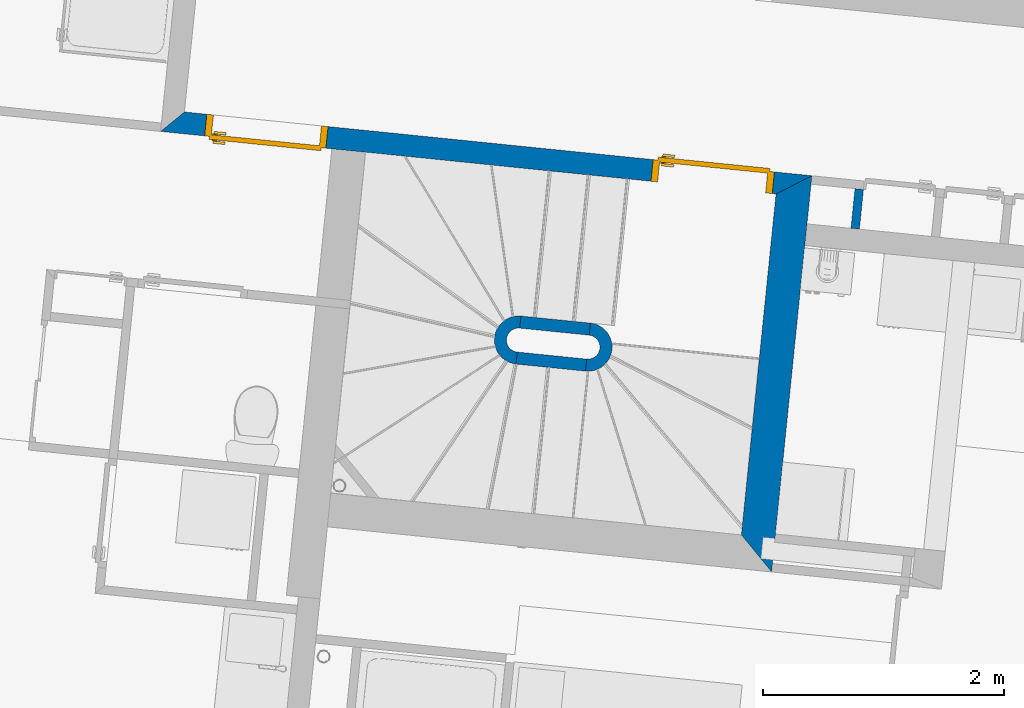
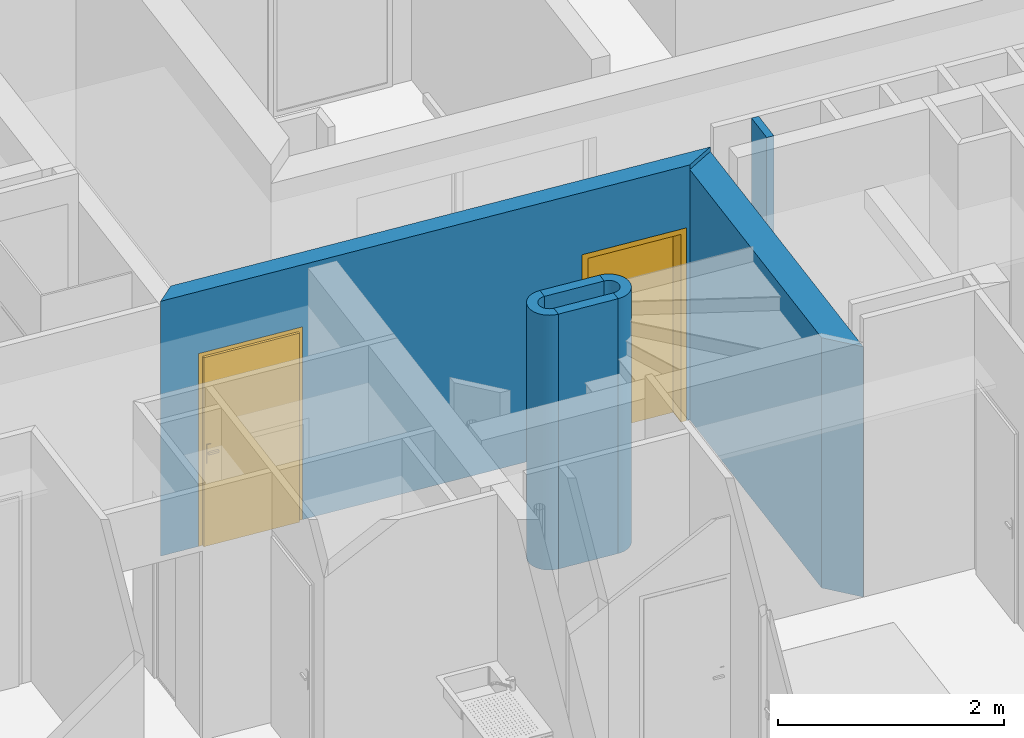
# One storey, part 65 of 171: 7 walls, 2 doors, 2 openings.
"""IFC2X3 building model written with IfcOpenShell, lengths in millimetres."""

from ifc_helpers import new_model, entity, si_unit, converted_unit, derived_unit, money_unit, point, direction, frame, frame_2d, origin_with_axes, origin_2d_with_axis, place, context, subcontext, project, spatial, polyline, circle_curve, parameter, trimmed, segment, composite_curve, rectangle, outline, extrude, faceted_brep, source, transform, mapped, material, layer, layer_set, layer_usage, type_object, element, fill, save


model = new_model("IFC2X3")

# Units and contexts
model_context = context("Model", 3, precision=0.01, world=origin_with_axes(), true_north=direction((0.0, 1.0)))
body_context = subcontext(model_context, "Body", "Model", "MODEL_VIEW")
ifc_project = project(units=[si_unit("LENGTHUNIT", "METRE", prefix="MILLI"), si_unit("AREAUNIT", "SQUARE_METRE"), si_unit("VOLUMEUNIT", "CUBIC_METRE"), converted_unit("PLANEANGLEUNIT", "DEGREE", entity("IfcPlaneAngleMeasure", 0.0174532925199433), si_unit("PLANEANGLEUNIT", "RADIAN"), dimensions=[0, 0, 0, 0, 0, 0, 0]), money_unit("USD"), converted_unit("TIMEUNIT", "Year", entity("IfcTimeMeasure", 31557600.0), si_unit("TIMEUNIT", "SECOND"), dimensions=[0, 0, 1, 0, 0, 0, 0]), si_unit("MASSUNIT", "GRAM", prefix="KILO"), si_unit("THERMODYNAMICTEMPERATUREUNIT", "DEGREE_CELSIUS"), si_unit("LUMINOUSINTENSITYUNIT", "LUMEN"), si_unit("ENERGYUNIT", "JOULE", prefix="MEGA"), derived_unit("THERMALCONDUCTANCEUNIT", [(si_unit("POWERUNIT", "WATT"), 1), (si_unit("LENGTHUNIT", "METRE"), -1), (si_unit("THERMODYNAMICTEMPERATUREUNIT", "KELVIN"), -1)]), derived_unit("SPECIFICHEATCAPACITYUNIT", [(si_unit("ENERGYUNIT", "JOULE"), 1), (si_unit("MASSUNIT", "GRAM", prefix="KILO"), -1), (si_unit("THERMODYNAMICTEMPERATUREUNIT", "KELVIN"), -1)]), derived_unit("MASSDENSITYUNIT", [(si_unit("MASSUNIT", "GRAM", prefix="KILO"), 1), (si_unit("VOLUMEUNIT", "CUBIC_METRE"), -1)])], contexts=[model_context])

# Site, building, storey
site_placement = place(None, origin_with_axes())
site = spatial("IfcSite", under=ifc_project, at=site_placement, Name="Site", CompositionType="ELEMENT")
building_placement = place(site_placement, origin_with_axes())
building = spatial("IfcBuilding", under=site, at=building_placement, Name="Bâtiment", CompositionType="ELEMENT")
storey_placement = place(building_placement, frame((0.0, 0.0, 3000.0), z_axis=(0.0, 0.0, 1.0), x_axis=(1.0, 0.0, 0.0)))
storey = spatial("IfcBuildingStorey", under=building, at=storey_placement, Name="rdc", CompositionType="ELEMENT", Elevation=3000.0)

# Wall, openings, doors
ifc_material_1 = material(Name="Parpaing 314940890")
ifc_layer_1 = layer(ifc_material_1, 180.0, ventilated="UNKNOWN")
ifc_layer_set_1 = layer_set([ifc_layer_1], Name="Beton  18 0018356637")
ifc_layer_usage_1 = layer_usage(ifc_layer_set_1, "AXIS2", "NEGATIVE", 0.0)
wall_type_1 = type_object("IfcWallType", Name="Beton  18 0018356637 180", PredefinedType="NOTDEFINED")
wall_1_placement = place(storey_placement, frame((2223823.551017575, -613702.3362195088, 0.0), z_axis=(0.0, 0.0, 1.0), x_axis=(0.9948759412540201, -0.1011032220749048, 0.0)))
wall_1 = element("IfcWallStandardCase", 1, at=wall_1_placement, inside=storey, type_object=wall_type_1, material=ifc_layer_usage_1, Name="Mur-143", context=body_context, shape_type="SweptSolid", body=[
    extrude(outline(polyline([(-180.0000000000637, -179.9999999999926), (4947.591869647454, -179.9999999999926), (5227.591869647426, 0.0), (-1.13686837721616e-10, 0.0), (-180.0000000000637, -179.9999999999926)])), origin_with_axes(), (0.0, 0.0, 1.0), 2750.0),
])
opening_1_placement = place(wall_1_placement, frame((4410.531857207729, 0.0, 0.0), z_axis=(0.0, 0.0, 1.0), x_axis=(1.0, 0.0, 0.0)))
opening_1 = element("IfcOpeningElement", 2, at=opening_1_placement, cuts=wall_1, Name="Por-281", context=body_context, shape_type="SweptSolid", body=[
    extrude(rectangle(XDim=1010.000011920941, YDim=2080.0, at=origin_2d_with_axis()), frame((5.960259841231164e-06, -179.9999999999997, 1040.0), z_axis=(0.0, 1.0, 0.0), x_axis=(1.0, 0.0, 0.0)), (0.0, 0.0, 1.0), 360.0),
])
opening_2_placement = place(wall_1_placement, frame((692.1727638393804, 0.0, 0.0), z_axis=(0.0, 0.0, 1.0), x_axis=(1.0, 0.0, 0.0)))
opening_2 = element("IfcOpeningElement", 3, at=opening_2_placement, cuts=wall_1, Name="Por-279", context=body_context, shape_type="SweptSolid", body=[
    extrude(rectangle(XDim=1010.000011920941, YDim=2080.0, at=origin_2d_with_axis()), frame((5.960259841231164e-06, 180.0000000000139, 1040.0), z_axis=(0.0, 1.0, 0.0), x_axis=(1.0, 0.0, 0.0)), (0.0, 0.0, -1.0), 360.0),
])
door_style = type_object("IfcDoorStyle", Name="Porte_1v", ConstructionType="NOTDEFINED", OperationType="NOTDEFINED", ParameterTakesPrecedence=False, Sizeable=False)
shared_shape_1 = source(origin_with_axes(), body_context, "Body", "Brep", [
    faceted_brep([(504.9999999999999, 0.0, 0.0), (464.9999999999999, 0.0, 0.0), (464.9999999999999, 0.0, 2040.0), (-464.9999999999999, 0.0, 2040.0), (-464.9999999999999, 0.0, 0.0), (-504.9999999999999, 0.0, 0.0), (-504.9999999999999, 0.0, 2080.0), (504.9999999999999, 0.0, 2080.0), (504.9999999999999, -180.0, 0.0), (449.9999999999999, -180.0, 0.0), (449.9999999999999, -15.0, 0.0), (464.9999999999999, -15.0, 0.0), (464.9999999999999, -15.0, 2040.0), (-464.9999999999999, -15.0, 2040.0), (-464.9999999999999, -15.0, 0.0), (-449.9999999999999, -15.0, 0.0), (-449.9999999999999, -180.0, 0.0), (-504.9999999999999, -180.0, 0.0), (-504.9999999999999, -180.0, 2080.0), (504.9999999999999, -180.0, 2080.0), (-449.9999999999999, -180.0, 2025.0), (449.9999999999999, -180.0, 2025.0), (449.9999999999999, -15.0, 2025.0), (-449.9999999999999, -15.0, 2025.0)], [[[0, 1, 2, 3, 4, 5, 6, 7]], [[0, 8, 9, 10, 11, 1]], [[1, 11, 12, 2]], [[2, 12, 13, 3]], [[3, 13, 14, 4]], [[5, 4, 14, 15, 16, 17]], [[18, 6, 5, 17]], [[19, 7, 6, 18]], [[8, 0, 7, 19]], [[9, 8, 19, 18, 17, 16, 20, 21]], [[10, 9, 21, 22]], [[11, 10, 22, 23, 15, 14, 13, 12]], [[23, 20, 16, 15]], [[22, 21, 20, 23]]]),
    faceted_brep([(-399.9999999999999, -15.0, 900.0), (-439.9999999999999, -15.0, 900.0), (-439.9999999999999, -15.0, 1100.0), (-399.9999999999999, -15.0, 1100.0), (-399.9999999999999, -25.0, 900.0), (-439.9999999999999, -25.0, 900.0), (-439.9999999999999, -25.0, 1100.0), (-399.9999999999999, -25.0, 1100.0)], [[[0, 1, 2, 3]], [[1, 0, 4, 5]], [[2, 1, 5, 6]], [[3, 2, 6, 7]], [[0, 3, 7, 4]], [[5, 4, 7, 6]]]),
    faceted_brep([(-329.9999999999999, -25.0, 1000.0), (-429.9999999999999, -25.0, 1000.0), (-429.9999999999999, -25.0, 1020.0), (-329.9999999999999, -25.0, 1020.0), (-329.9999999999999, -44.99999999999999, 1000.0), (-429.9999999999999, -44.99999999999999, 1000.0), (-429.9999999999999, -44.99999999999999, 1020.0), (-329.9999999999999, -44.99999999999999, 1020.0)], [[[0, 1, 2, 3]], [[1, 0, 4, 5]], [[2, 1, 5, 6]], [[3, 2, 6, 7]], [[0, 3, 7, 4]], [[5, 4, 7, 6]]]),
    faceted_brep([(-399.9999999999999, 34.99999999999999, 900.0), (-439.9999999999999, 34.99999999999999, 900.0), (-439.9999999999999, 34.99999999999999, 1100.0), (-399.9999999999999, 34.99999999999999, 1100.0), (-399.9999999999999, 25.0, 900.0), (-439.9999999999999, 25.0, 900.0), (-439.9999999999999, 25.0, 1100.0), (-399.9999999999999, 25.0, 1100.0)], [[[0, 1, 2, 3]], [[1, 0, 4, 5]], [[2, 1, 5, 6]], [[3, 2, 6, 7]], [[0, 3, 7, 4]], [[5, 4, 7, 6]]]),
    faceted_brep([(-329.9999999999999, 55.0, 1000.0), (-429.9999999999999, 55.0, 1000.0), (-429.9999999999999, 55.0, 1020.0), (-329.9999999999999, 55.0, 1020.0), (-329.9999999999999, 34.99999999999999, 1000.0), (-429.9999999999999, 34.99999999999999, 1000.0), (-429.9999999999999, 34.99999999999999, 1020.0), (-329.9999999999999, 34.99999999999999, 1020.0)], [[[0, 1, 2, 3]], [[1, 0, 4, 5]], [[2, 1, 5, 6]], [[3, 2, 6, 7]], [[0, 3, 7, 4]], [[5, 4, 7, 6]]]),
    faceted_brep([(-464.9999999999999, 25.0, 0.0), (464.9999999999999, 25.0, 0.0), (464.9999999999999, -15.0, 0.0), (-464.9999999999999, -15.0, 0.0), (-464.9999999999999, 25.0, 2040.0), (464.9999999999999, 25.0, 2040.0), (464.9999999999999, -15.0, 2040.0), (-464.9999999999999, -15.0, 2040.0)], [[[0, 1, 2, 3]], [[0, 4, 5, 1]], [[1, 5, 6, 2]], [[3, 2, 6, 7]], [[4, 0, 3, 7]], [[5, 4, 7, 6]]]),
])
door_1_placement = place(opening_1_placement, frame((-465.0000000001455, 0.0, 0.0), z_axis=(0.0, 0.0, 1.0), x_axis=(1.0, 0.0, 0.0)))
door_1 = element("IfcDoor", 4, at=door_1_placement, inside=storey, type_object=door_style, Name="Por-281", OverallHeight=2040.0, OverallWidth=930.0, context=body_context, shape_type="MappedRepresentation", body=[
    mapped(shared_shape_1, transform((465.0000000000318, 0.0, 0.0))),
])
fill(opening_1, door_1)
shared_shape_2 = source(origin_with_axes(), body_context, "Body", "Brep", [
    faceted_brep([(-504.9999999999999, 0.0, 0.0), (-504.9999999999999, 0.0, 2080.0), (504.9999999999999, 0.0, 2080.0), (504.9999999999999, 0.0, 0.0), (464.9999999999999, 0.0, 0.0), (464.9999999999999, 0.0, 2040.0), (-464.9999999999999, 0.0, 2040.0), (-464.9999999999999, 0.0, 0.0), (-504.9999999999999, -180.0, 0.0), (-504.9999999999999, -180.0, 2080.0), (504.9999999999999, -180.0, 2080.0), (504.9999999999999, -180.0, 0.0), (449.9999999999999, -180.0, 0.0), (449.9999999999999, -15.0, 0.0), (464.9999999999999, -15.0, 0.0), (464.9999999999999, -15.0, 2040.0), (-464.9999999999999, -15.0, 2040.0), (-464.9999999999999, -15.0, 0.0), (-449.9999999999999, -15.0, 0.0), (-449.9999999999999, -180.0, 0.0), (-449.9999999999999, -180.0, 2025.0), (449.9999999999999, -180.0, 2025.0), (449.9999999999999, -15.0, 2025.0), (-449.9999999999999, -15.0, 2025.0)], [[[0, 1, 2, 3, 4, 5, 6, 7]], [[8, 9, 1, 0]], [[9, 10, 2, 1]], [[10, 11, 3, 2]], [[3, 11, 12, 13, 14, 4]], [[5, 4, 14, 15]], [[6, 5, 15, 16]], [[7, 6, 16, 17]], [[0, 7, 17, 18, 19, 8]], [[19, 20, 21, 12, 11, 10, 9, 8]], [[22, 13, 12, 21]], [[17, 16, 15, 14, 13, 22, 23, 18]], [[18, 23, 20, 19]], [[23, 22, 21, 20]]]),
    faceted_brep([(399.9999999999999, -15.0, 900.0), (399.9999999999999, -15.0, 1100.0), (439.9999999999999, -15.0, 1100.0), (439.9999999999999, -15.0, 900.0), (399.9999999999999, -25.0, 900.0), (399.9999999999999, -25.0, 1100.0), (439.9999999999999, -25.0, 1100.0), (439.9999999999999, -25.0, 900.0)], [[[0, 1, 2, 3]], [[0, 4, 5, 1]], [[1, 5, 6, 2]], [[2, 6, 7, 3]], [[3, 7, 4, 0]], [[7, 6, 5, 4]]]),
    faceted_brep([(329.9999999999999, -25.0, 1000.0), (329.9999999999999, -25.0, 1020.0), (429.9999999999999, -25.0, 1020.0), (429.9999999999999, -25.0, 1000.0), (329.9999999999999, -44.99999999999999, 1000.0), (329.9999999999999, -44.99999999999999, 1020.0), (429.9999999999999, -44.99999999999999, 1020.0), (429.9999999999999, -44.99999999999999, 1000.0)], [[[0, 1, 2, 3]], [[0, 4, 5, 1]], [[1, 5, 6, 2]], [[2, 6, 7, 3]], [[3, 7, 4, 0]], [[7, 6, 5, 4]]]),
    faceted_brep([(399.9999999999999, 34.99999999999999, 900.0), (399.9999999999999, 34.99999999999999, 1100.0), (439.9999999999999, 34.99999999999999, 1100.0), (439.9999999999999, 34.99999999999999, 900.0), (399.9999999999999, 25.0, 900.0), (399.9999999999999, 25.0, 1100.0), (439.9999999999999, 25.0, 1100.0), (439.9999999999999, 25.0, 900.0)], [[[0, 1, 2, 3]], [[0, 4, 5, 1]], [[1, 5, 6, 2]], [[2, 6, 7, 3]], [[3, 7, 4, 0]], [[7, 6, 5, 4]]]),
    faceted_brep([(329.9999999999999, 55.0, 1000.0), (329.9999999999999, 55.0, 1020.0), (429.9999999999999, 55.0, 1020.0), (429.9999999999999, 55.0, 1000.0), (329.9999999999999, 34.99999999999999, 1000.0), (329.9999999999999, 34.99999999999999, 1020.0), (429.9999999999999, 34.99999999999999, 1020.0), (429.9999999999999, 34.99999999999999, 1000.0)], [[[0, 1, 2, 3]], [[0, 4, 5, 1]], [[1, 5, 6, 2]], [[2, 6, 7, 3]], [[3, 7, 4, 0]], [[7, 6, 5, 4]]]),
    faceted_brep([(464.9999999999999, 25.0, 0.0), (464.9999999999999, -15.0, 0.0), (-464.9999999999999, -15.0, 0.0), (-464.9999999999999, 25.0, 0.0), (464.9999999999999, 25.0, 2040.0), (464.9999999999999, -15.0, 2040.0), (-464.9999999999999, -15.0, 2040.0), (-464.9999999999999, 25.0, 2040.0)], [[[0, 1, 2, 3]], [[4, 5, 1, 0]], [[1, 5, 6, 2]], [[3, 2, 6, 7]], [[0, 3, 7, 4]], [[7, 6, 5, 4]]]),
])
door_2_placement = place(opening_2_placement, frame((465.0000000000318, 0.0, 0.0), z_axis=(0.0, 0.0, 1.0), x_axis=(-1.0, 0.0, 0.0)))
door_2 = element("IfcDoor", 5, at=door_2_placement, inside=storey, type_object=door_style, Name="Por-279", OverallHeight=2040.0, OverallWidth=930.0, context=body_context, shape_type="MappedRepresentation", body=[
    mapped(shared_shape_2, transform((465.0000000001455, 180.0000000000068, 0.0))),
])
fill(opening_2, door_2)

# Walls
ifc_material_2 = material(Name="Hachure solide 268963992")
ifc_layer_2 = layer(ifc_material_2, 70.0, ventilated="UNKNOWN")
ifc_layer_set_2 = layer_set([ifc_layer_2], Name="Cloison 70 0826278243")
ifc_layer_usage_2 = layer_usage(ifc_layer_set_2, "AXIS2", "NEGATIVE", 0.0)
wall_type_2 = type_object("IfcWallType", Name="Cloison 70 0826278243 70", PredefinedType="NOTDEFINED")
wall_2_placement = place(storey_placement, frame((2229348.709405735, -614666.0063034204, 0.0), z_axis=(0.0, 0.0, 1.0), x_axis=(0.1011032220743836, 0.9948759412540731, 0.0)))
element("IfcWallStandardCase", 6, at=wall_2_placement, inside=storey, type_object=wall_type_2, material=ifc_layer_usage_2, Name="Mur-121", context=body_context, shape_type="SweptSolid", body=[
    extrude(outline(polyline([(0.0, -69.99999999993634), (330.1208662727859, -70.00000000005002), (330.1208662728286, 0.0), (0.0, 0.0), (0.0, -69.99999999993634)])), origin_with_axes(), (0.0, 0.0, 1.0), 3000.0),
])
ifc_material_3 = material(Name="Brique 1 268964100")
ifc_layer_3 = layer(ifc_material_3, 100.0, ventilated="UNKNOWN")
ifc_layer_set_3 = layer_set([ifc_layer_3], Name="Cloison 100 gaine 0826278243")
ifc_layer_usage_3 = layer_usage(ifc_layer_set_3, "AXIS2", "POSITIVE", 0.0)
wall_type_3 = type_object("IfcWallType", Name="Cloison 100 gaine 0826278243 100", PredefinedType="NOTDEFINED")
wall_3_placement = place(storey_placement, frame((2226613.163739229, -615393.970166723, 0.0), z_axis=(0.0, 0.0, 1.0), x_axis=(-0.9948759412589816, 0.1011032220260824, 0.0)))
element("IfcWallStandardCase", 7, at=wall_3_placement, inside=storey, type_object=wall_type_3, material=ifc_layer_usage_3, Name="Mur-149", context=body_context, shape_type="SweptSolid", body=[
    extrude(outline(composite_curve([segment(trimmed(circle_curve(frame_2d((5.521201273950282e-06, 199.9146077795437), x_axis=(5.39702898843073e-08, -0.9999999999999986)), 199.9146077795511), [point((1.631065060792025e-05, 0.0)), parameter(0.0)], [point((-5.268248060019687e-06, 399.8292155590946)), parameter(179.9999938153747)], True, "CARTESIAN"), True, "CONTINUOUS"), segment(polyline([(-5.268248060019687e-06, 399.8292155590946), (1.13686837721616e-10, 299.8292155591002)]), True, "CONTINUOUS"), segment(trimmed(circle_curve(frame_2d((5.392507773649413e-06, 199.9146077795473), x_axis=(5.397002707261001e-08, -0.9999999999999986)), 99.91460777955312), [point((1.13686837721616e-10, 299.8292155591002)), parameter(179.9999938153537)], [point((1.07849018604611e-05, 99.99999999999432)), parameter(0.0)], False, "CARTESIAN"), True, "CONTINUOUS"), segment(polyline([(1.07849018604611e-05, 99.99999999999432), (1.631065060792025e-05, 0.0)]), True, "CONTINUOUS")], self_intersect=False)), origin_with_axes(), (0.0, 0.0, 1.0), 2750.0),
])
ifc_layer_usage_4 = layer_usage(ifc_layer_set_3, "AXIS2", "POSITIVE", 0.0)
wall_4_placement = place(storey_placement, frame((2226572.739717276, -615791.7506338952, 0.0), z_axis=(0.0, 0.0, 1.0), x_axis=(0.9948759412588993, -0.1011032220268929, 0.0)))
element("IfcWallStandardCase", 8, at=wall_4_placement, inside=storey, type_object=wall_type_3, material=ifc_layer_usage_4, Name="Mur-149", context=body_context, shape_type="SweptSolid", body=[
    extrude(outline(polyline([(-2.273736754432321e-10, 0.0), (578.4829886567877, 0.0), (578.4829886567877, 99.99999999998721), (-2.273736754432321e-10, 99.99999999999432), (-2.273736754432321e-10, 0.0)])), origin_with_axes(), (0.0, 0.0, 1.0), 2750.0),
])
ifc_layer_usage_5 = layer_usage(ifc_layer_set_3, "AXIS2", "POSITIVE", 0.0)
wall_5_placement = place(storey_placement, frame((2227188.682633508, -615452.4566067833, 0.0), z_axis=(0.0, 0.0, 1.0), x_axis=(-0.9948759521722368, 0.1011031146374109, 0.0)))
element("IfcWallStandardCase", 9, at=wall_5_placement, inside=storey, type_object=wall_type_3, material=ifc_layer_usage_5, Name="Mur-149", context=body_context, shape_type="SweptSolid", body=[
    extrude(outline(polyline([(0.0001021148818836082, 0.0), (578.4830907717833, 0.0), (578.4830907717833, 100.0000000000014), (0.0001021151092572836, 100.0000000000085), (0.0001021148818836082, 0.0)])), origin_with_axes(), (0.0, 0.0, 1.0), 2750.0),
])
ifc_layer_usage_6 = layer_usage(ifc_layer_set_3, "AXIS2", "POSITIVE", 0.0)
wall_6_placement = place(storey_placement, frame((2227148.258605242, -615850.2371360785, 0.0), z_axis=(0.0, 0.0, 1.0), x_axis=(0.9948759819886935, -0.1011028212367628, 0.0)))
element("IfcWallStandardCase", 10, at=wall_6_placement, inside=storey, type_object=wall_type_3, material=ifc_layer_usage_6, Name="Mur-149", context=body_context, shape_type="SweptSolid", body=[
    extrude(outline(composite_curve([segment(trimmed(circle_curve(frame_2d((-1.078956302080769e-05, 199.9146077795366), x_axis=(-3.488833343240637e-07, -0.9999999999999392)), 199.9146077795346), [point((-8.053643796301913e-05, 0.0)), parameter(0.0)], [point((5.895731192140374e-05, 399.829215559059)), parameter(180.000006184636)], True, "CARTESIAN"), True, "CONTINUOUS"), segment(polyline([(5.895731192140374e-05, 399.829215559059), (3.210027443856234e-05, 299.8292155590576)]), True, "CONTINUOUS"), segment(trimmed(circle_curve(frame_2d((-2.758270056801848e-06, 199.9146077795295), x_axis=(-3.488833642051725e-07, -0.9999999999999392)), 99.91460777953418), [point((3.210027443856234e-05, 299.8292155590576)), parameter(180.0000061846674)], [point((-3.761681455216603e-05, 100.0000000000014)), parameter(0.0)], False, "CARTESIAN"), True, "CONTINUOUS"), segment(polyline([(-3.761681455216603e-05, 100.0000000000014), (-8.053643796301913e-05, 0.0)]), True, "CONTINUOUS")], self_intersect=False)), origin_with_axes(), (0.0, 0.0, 1.0), 2750.0),
])
ifc_material_4 = material(Name="Parpaing 312445824")
ifc_layer_4 = layer(ifc_material_4, 180.0, ventilated="UNKNOWN")
ifc_material_5 = material(Name="Isolant styromousse 301821074")
ifc_layer_5 = layer(ifc_material_5, 100.0, ventilated="UNKNOWN")
ifc_layer_set_4 = layer_set([ifc_layer_4, ifc_layer_5], Name="isol int 18+10 0018356637")
ifc_layer_usage_7 = layer_usage(ifc_layer_set_4, "AXIS2", "NEGATIVE", 0.0)
wall_type_4 = type_object("IfcWallType", Name="isol int 18+10 0018356637 280", PredefinedType="NOTDEFINED")
wall_7_placement = place(storey_placement, frame((2228440.382941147, -617207.8314628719, 0.0), z_axis=(0.0, 0.0, 1.0), x_axis=(0.1011032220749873, 0.9948759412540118, 0.0)))
element("IfcWallStandardCase", 11, at=wall_7_placement, inside=storey, type_object=wall_type_4, material=ifc_layer_usage_7, Name="Mur-142", context=body_context, shape_type="SweptSolid", body=[
    extrude(outline(polyline([(-280.0000000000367, -279.9999999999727), (3020.756296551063, -280.0000000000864), (2840.756296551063, -1.13686837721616e-10), (0.0, 0.0), (-280.0000000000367, -279.9999999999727)])), origin_with_axes(), (0.0, 0.0, 1.0), 2700.0),
])

save(model, "model.ifc")
